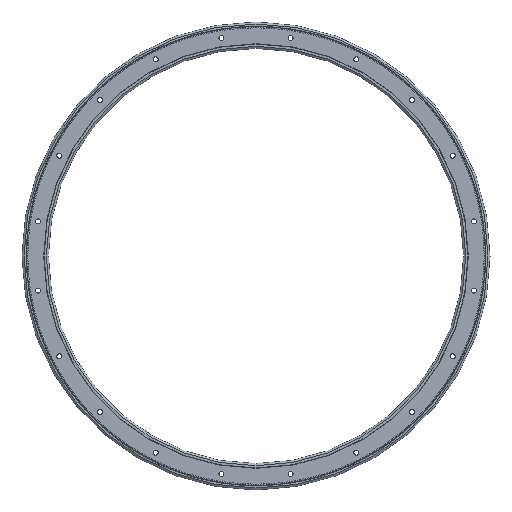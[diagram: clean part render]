
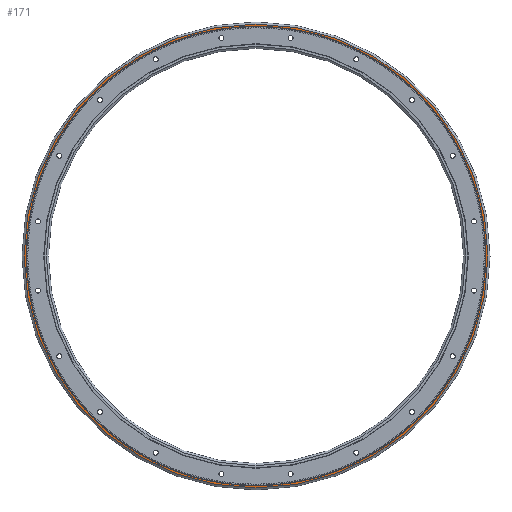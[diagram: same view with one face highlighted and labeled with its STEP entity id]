
A CAD part, front view. The second image highlights one B-rep face of the part: STEP entity #171.
In plain terms, the highlighted planar face has unit normal (0, -1, 0).
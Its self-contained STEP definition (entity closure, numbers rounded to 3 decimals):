
#171 = ADVANCED_FACE( '', ( #5746, #5747 ), #5748, .T. );
#5746 = FACE_OUTER_BOUND( '', #16580, .T. );
#5747 = FACE_BOUND( '', #16581, .T. );
#5748 = PLANE( '', #16582 );
#16580 = EDGE_LOOP( '', ( #30259 ) );
#16581 = EDGE_LOOP( '', ( #30260 ) );
#16582 = AXIS2_PLACEMENT_3D( '', #30261, #30262, #30263 );
#30259 = ORIENTED_EDGE( '', *, *, #74155, .T. );
#30260 = ORIENTED_EDGE( '', *, *, #74156, .F. );
#30261 = CARTESIAN_POINT( '', ( 654.95, 15., 0. ) );
#30262 = DIRECTION( '', ( 0., -1., 0. ) );
#30263 = DIRECTION( '', ( 0., 0., -1. ) );
#74155 = EDGE_CURVE( '', #91034, #91034, #91035, .T. );
#74156 = EDGE_CURVE( '', #91036, #91036, #91037, .T. );
#91034 = VERTEX_POINT( '', #115821 );
#91035 = CIRCLE( '', #115822, 665.443 );
#91036 = VERTEX_POINT( '', #115823 );
#91037 = CIRCLE( '', #115824, 654.95 );
#115821 = CARTESIAN_POINT( '', ( 0., 15., -665.443 ) );
#115822 = AXIS2_PLACEMENT_3D( '', #149389, #149390, #149391 );
#115823 = CARTESIAN_POINT( '', ( 0., 15., -654.95 ) );
#115824 = AXIS2_PLACEMENT_3D( '', #149392, #149393, #149394 );
#149389 = CARTESIAN_POINT( '', ( 0., 15., 0. ) );
#149390 = DIRECTION( '', ( 0., -1., 0. ) );
#149391 = DIRECTION( '', ( 0., 0., -1. ) );
#149392 = CARTESIAN_POINT( '', ( 0., 15., 0. ) );
#149393 = DIRECTION( '', ( 0., -1., 0. ) );
#149394 = DIRECTION( '', ( 0., 0., -1. ) );
